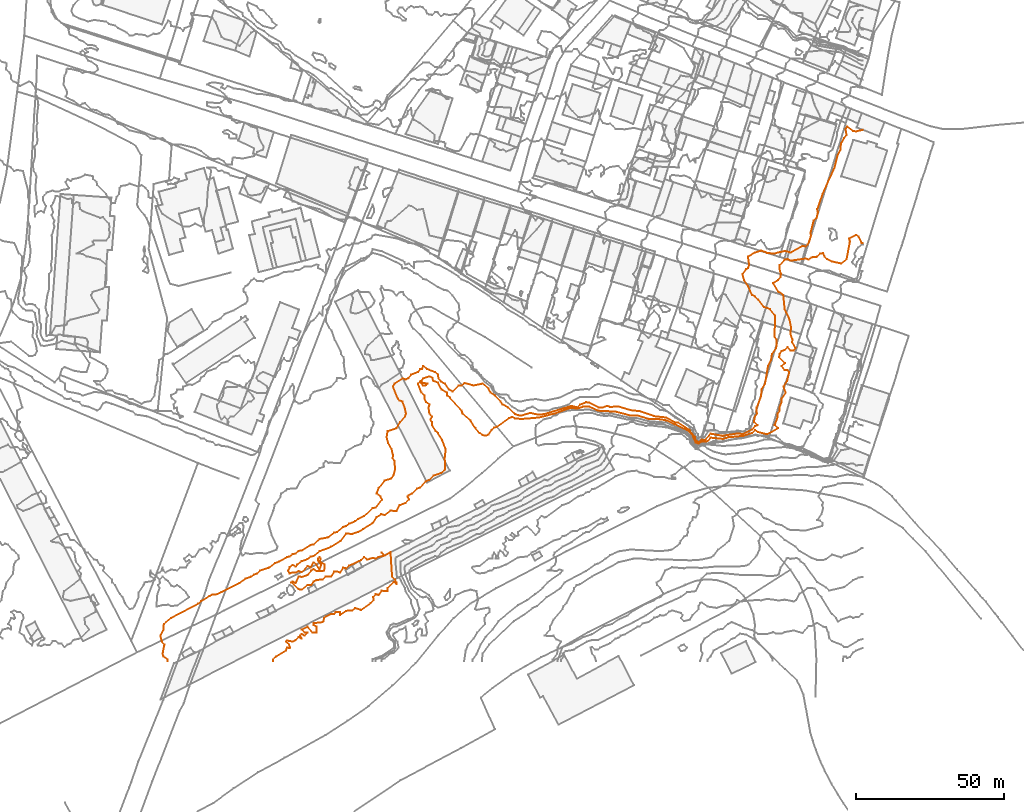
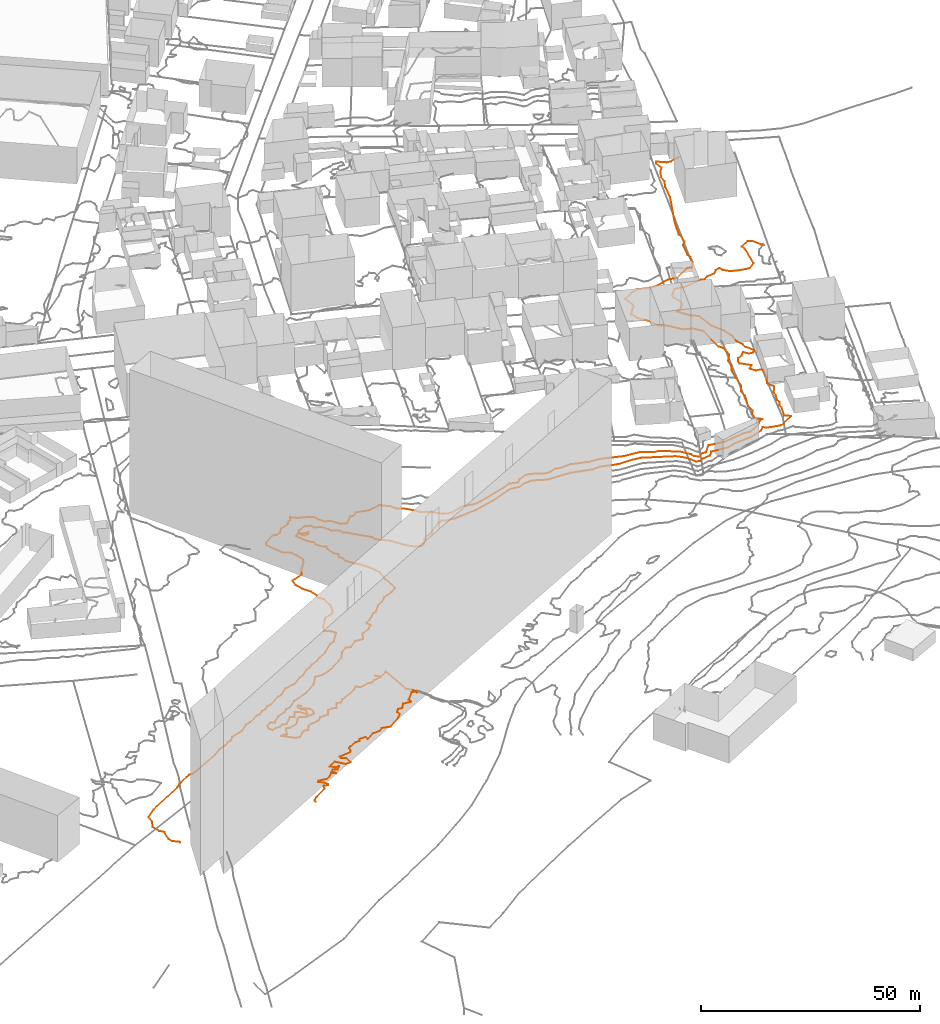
# Not in any storey, part 192 of 419: 2 proxies.
"""IFC2X3 model written with IfcOpenShell, lengths in metres."""

from ifc_helpers import new_model, entity, si_unit, frame, origin_with_axes, place, context, subcontext, project, element, save


model = new_model("IFC2X3")

# Units and contexts
model_context = context("Model", 3, precision=1e-05, world=origin_with_axes())
body_context = subcontext(model_context, "Body", "Model", "MODEL_VIEW")
ifc_project = project(units=[si_unit("AREAUNIT", "SQUARE_METRE"), si_unit("LENGTHUNIT", "METRE")], contexts=[model_context])

# Proxies
proxy_1_placement = place(None, frame((777.3776879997, -1.6023090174, 70.0), z_axis=(0.0, 0.0, 1.0), x_axis=(1.0, 0.0, 0.0)))
element("IfcBuildingElementProxy", 1, at=proxy_1_placement, Name="Contour 70.0 m", ObjectType="NOTDEFINED", context=body_context, shape_type="GeometricCurveSet", body=[
    entity("IfcGeometricCurveSet", [entity("IfcPolyline", [entity("IfcCartesianPoint", [199.214332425, 140.9999500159, 0.0]), entity("IfcCartesianPoint", [198.714332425, 140.9999500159, 0.0]), entity("IfcCartesianPoint", [197.714332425, 143.10003052, 0.0]), entity("IfcCartesianPoint", [196.714332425, 143.7000305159, 0.0]), entity("IfcCartesianPoint", [194.5143019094, 142.5, 0.0]), entity("IfcCartesianPoint", [194.714332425, 141.4999000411, 0.0]), entity("IfcCartesianPoint", [193.5605088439, 135.5, 0.0]), entity("IfcCartesianPoint", [191.714332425, 134.0789431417, 0.0]), entity("IfcCartesianPoint", [188.714332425, 134.7333299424, 0.0]), entity("IfcCartesianPoint", [187.077975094, 135.5, 0.0]), entity("IfcCartesianPoint", [186.1587674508, 136.5, 0.0]), entity("IfcCartesianPoint", [185.714332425, 137.6250238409, 0.0]), entity("IfcCartesianPoint", [184.714332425, 137.3571117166, 0.0]), entity("IfcCartesianPoint", [183.714332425, 136.3571117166, 0.0]), entity("IfcCartesianPoint", [181.714332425, 136.1667090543, 0.0]), entity("IfcCartesianPoint", [180.714332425, 135.4230633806, 0.0]), entity("IfcCartesianPoint", [179.714332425, 135.75, 0.0]), entity("IfcCartesianPoint", [174.714332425, 135.0161322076, 0.0]), entity("IfcCartesianPoint", [173.714332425, 135.4999944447, 0.0]), entity("IfcCartesianPoint", [172.714332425, 135.4090719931, 0.0]), entity("IfcCartesianPoint", [171.0220382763, 133.5, 0.0]), entity("IfcCartesianPoint", [170.9143019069, 132.5, 0.0]), entity("IfcCartesianPoint", [171.4286648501, 130.5, 0.0]), entity("IfcCartesianPoint", [171.3143629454, 129.5, 0.0]), entity("IfcCartesianPoint", [170.4286648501, 128.5, 0.0]), entity("IfcCartesianPoint", [168.8143553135, 127.5, 0.0]), entity("IfcCartesianPoint", [170.623435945, 124.5, 0.0]), entity("IfcCartesianPoint", [172.2143362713, 123.5, 0.0]), entity("IfcCartesianPoint", [172.714332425, 118.7500476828, 0.0]), entity("IfcCartesianPoint", [174.2528029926, 115.5, 0.0]), entity("IfcCartesianPoint", [174.7143395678, 113.5, 0.0]), entity("IfcCartesianPoint", [174.8681560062, 112.5, 0.0]), entity("IfcCartesianPoint", [174.6309831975, 110.5, 0.0]), entity("IfcCartesianPoint", [175.2976498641, 108.5, 0.0]), entity("IfcCartesianPoint", [175.2643438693, 107.5, 0.0]), entity("IfcCartesianPoint", [176.3393383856, 105.5, 0.0]), entity("IfcCartesianPoint", [175.714332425, 104.6666454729, 0.0]), entity("IfcCartesianPoint", [174.714332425, 104.7727146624, 0.0]), entity("IfcCartesianPoint", [173.714332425, 105.9166825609, 0.0]), entity("IfcCartesianPoint", [172.714332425, 104.89996948, 0.0]), entity("IfcCartesianPoint", [171.5714441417, 104.5, 0.0]), entity("IfcCartesianPoint", [171.0476233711, 103.5, 0.0]), entity("IfcCartesianPoint", [170.8572207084, 102.5, 0.0]), entity("IfcCartesianPoint", [172.8572207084, 100.5, 0.0]), entity("IfcCartesianPoint", [171.7143574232, 99.5, 0.0]), entity("IfcCartesianPoint", [172.714332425, 98.166666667, 0.0]), entity("IfcCartesianPoint", [173.714332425, 98.0624910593, 0.0]), entity("IfcCartesianPoint", [174.2143379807, 97.5, 0.0]), entity("IfcCartesianPoint", [173.5306656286, 94.5, 0.0]), entity("IfcCartesianPoint", [172.3111084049, 92.5, 0.0]), entity("IfcCartesianPoint", [173.0621613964, 90.5, 0.0]), entity("IfcCartesianPoint", [171.6921056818, 88.5, 0.0]), entity("IfcCartesianPoint", [171.7143395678, 87.5, 0.0]), entity("IfcCartesianPoint", [170.9286103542, 85.5, 0.0]), entity("IfcCartesianPoint", [171.0476827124, 84.5, 0.0]), entity("IfcCartesianPoint", [170.3393234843, 83.5, 0.0]), entity("IfcCartesianPoint", [170.3665034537, 82.5, 0.0]), entity("IfcCartesianPoint", [169.3429100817, 79.5, 0.0]), entity("IfcCartesianPoint", [170.5220145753, 78.5, 0.0]), entity("IfcCartesianPoint", [166.714332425, 76.4510888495, 0.0]), entity("IfcCartesianPoint", [163.714332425, 77.1785694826, 0.0]), entity("IfcCartesianPoint", [162.714332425, 77.8484880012, 0.0]), entity("IfcCartesianPoint", [161.714332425, 76.947056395, 0.0]), entity("IfcCartesianPoint", [158.714332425, 75.9000000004, 0.0]), entity("IfcCartesianPoint", [153.714332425, 75.4499969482, 0.0]), entity("IfcCartesianPoint", [151.714332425, 74.8894746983, 0.0]), entity("IfcCartesianPoint", [147.714332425, 75.3214305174, 0.0]), entity("IfcCartesianPoint", [146.714332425, 74.105041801, 0.0]), entity("IfcCartesianPoint", [144.714332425, 73.9551735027, 0.0]), entity("IfcCartesianPoint", [143.714332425, 73.3651682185, 0.0]), entity("IfcCartesianPoint", [142.714332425, 73.6382103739, 0.0]), entity("IfcCartesianPoint", [141.714332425, 75.8785701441, 0.0]), entity("IfcCartesianPoint", [139.714332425, 77.8393937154, 0.0]), entity("IfcCartesianPoint", [132.714332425, 81.1666685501, 0.0]), entity("IfcCartesianPoint", [130.714332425, 81.5090109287, 0.0]), entity("IfcCartesianPoint", [126.714332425, 81.6315765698, 0.0]), entity("IfcCartesianPoint", [122.714332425, 82.8469365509, 0.0]), entity("IfcCartesianPoint", [120.714332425, 82.7608690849, 0.0]), entity("IfcCartesianPoint", [115.714332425, 84.0806459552, 0.0]), entity("IfcCartesianPoint", [109.714332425, 84.4036124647, 0.0]), entity("IfcCartesianPoint", [106.714332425, 85.7619049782, 0.0]), entity("IfcCartesianPoint", [105.714332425, 85.7857154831, 0.0]), entity("IfcCartesianPoint", [104.714332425, 85.7641504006, 0.0]), entity("IfcCartesianPoint", [102.714332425, 85.0889826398, 0.0]), entity("IfcCartesianPoint", [100.714332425, 85.3698612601, 0.0]), entity("IfcCartesianPoint", [99.714332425, 85.1821174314, 0.0]), entity("IfcCartesianPoint", [95.2360679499, 83.5, 0.0]), entity("IfcCartesianPoint", [89.714332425, 82.0858571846, 0.0]), entity("IfcCartesianPoint", [83.714332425, 81.5988975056, 0.0]), entity("IfcCartesianPoint", [81.714332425, 81.8333268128, 0.0]), entity("IfcCartesianPoint", [80.714332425, 82.2778060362, 0.0]), entity("IfcCartesianPoint", [79.714332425, 81.9444350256, 0.0]), entity("IfcCartesianPoint", [75.714332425, 78.9999749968, 0.0]), entity("IfcCartesianPoint", [74.714332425, 78.6666878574, 0.0]), entity("IfcCartesianPoint", [73.714332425, 77.8332909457, 0.0]), entity("IfcCartesianPoint", [72.714332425, 76.3571117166, 0.0]), entity("IfcCartesianPoint", [71.714332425, 75.9545706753, 0.0]), entity("IfcCartesianPoint", [70.714332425, 76.166666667, 0.0]), entity("IfcCartesianPoint", [69.714332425, 76.9444350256, 0.0]), entity("IfcCartesianPoint", [68.3297080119, 78.5, 0.0]), entity("IfcCartesianPoint", [66.714332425, 81.0624910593, 0.0]), entity("IfcCartesianPoint", [63.9286103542, 83.5, 0.0]), entity("IfcCartesianPoint", [63.714332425, 84.5303093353, 0.0]), entity("IfcCartesianPoint", [59.714332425, 88.8846244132, 0.0]), entity("IfcCartesianPoint", [58.8254623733, 89.5, 0.0]), entity("IfcCartesianPoint", [58.7142990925, 90.5, 0.0]), entity("IfcCartesianPoint", [57.0, 91.5, 0.0]), entity("IfcCartesianPoint", [55.714332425, 93.8666649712, 0.0]), entity("IfcCartesianPoint", [54.1428882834, 94.5, 0.0]), entity("IfcCartesianPoint", [53.8572207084, 95.5, 0.0]), entity("IfcCartesianPoint", [52.714332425, 95.9999833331, 0.0]), entity("IfcCartesianPoint", [50.714332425, 95.3333121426, 0.0]), entity("IfcCartesianPoint", [50.0, 94.5, 0.0]), entity("IfcCartesianPoint", [50.714332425, 93.785667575, 0.0]), entity("IfcCartesianPoint", [52.2143824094, 93.5, 0.0]), entity("IfcCartesianPoint", [51.714332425, 92.9999500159, 0.0]), entity("IfcCartesianPoint", [50.714332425, 92.8334181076, 0.0]), entity("IfcCartesianPoint", [49.714332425, 94.1667090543, 0.0]), entity("IfcCartesianPoint", [48.9143629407, 93.5, 0.0]), entity("IfcCartesianPoint", [50.1260997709, 90.5, 0.0]), entity("IfcCartesianPoint", [51.1428882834, 89.5, 0.0]), entity("IfcCartesianPoint", [51.1809923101, 88.5, 0.0]), entity("IfcCartesianPoint", [51.714332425, 87.2999694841, 0.0]), entity("IfcCartesianPoint", [52.8254623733, 86.5, 0.0]), entity("IfcCartesianPoint", [52.5476445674, 85.5, 0.0]), entity("IfcCartesianPoint", [52.8393562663, 83.5, 0.0]), entity("IfcCartesianPoint", [53.7143435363, 82.5, 0.0]), entity("IfcCartesianPoint", [53.2143824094, 81.5, 0.0]), entity("IfcCartesianPoint", [53.7143657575, 80.5, 0.0]), entity("IfcCartesianPoint", [53.7143574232, 79.5, 0.0]), entity("IfcCartesianPoint", [54.9643801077, 77.5, 0.0]), entity("IfcCartesianPoint", [55.714332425, 76.89996948, 0.0]), entity("IfcCartesianPoint", [57.1260997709, 74.5, 0.0]), entity("IfcCartesianPoint", [58.3143385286, 71.5, 0.0]), entity("IfcCartesianPoint", [58.0000544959, 68.5, 0.0]), entity("IfcCartesianPoint", [58.1428882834, 64.5, 0.0]), entity("IfcCartesianPoint", [56.714332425, 63.4230633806, 0.0]), entity("IfcCartesianPoint", [54.2143490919, 62.5, 0.0]), entity("IfcCartesianPoint", [52.714332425, 61.0714441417, 0.0]), entity("IfcCartesianPoint", [51.4643562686, 60.5, 0.0]), entity("IfcCartesianPoint", [49.714332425, 58.4999888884, 0.0]), entity("IfcCartesianPoint", [48.714332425, 58.10003052, 0.0]), entity("IfcCartesianPoint", [46.9143629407, 56.5, 0.0]), entity("IfcCartesianPoint", [45.714332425, 55.8332909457, 0.0]), entity("IfcCartesianPoint", [45.5143629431, 55.5, 0.0]), entity("IfcCartesianPoint", [45.9643801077, 54.5, 0.0]), entity("IfcCartesianPoint", [44.714332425, 53.3333121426, 0.0]), entity("IfcCartesianPoint", [42.7143490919, 52.5, 0.0]), entity("IfcCartesianPoint", [41.714332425, 50.4999875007, 0.0]), entity("IfcCartesianPoint", [39.714332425, 50.6817992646, 0.0]), entity("IfcCartesianPoint", [37.714332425, 49.1667090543, 0.0]), entity("IfcCartesianPoint", [36.5714441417, 49.5, 0.0]), entity("IfcCartesianPoint", [35.0, 48.5, 0.0]), entity("IfcCartesianPoint", [33.714332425, 46.4999888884, 0.0]), entity("IfcCartesianPoint", [30.5143019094, 44.5, 0.0]), entity("IfcCartesianPoint", [28.714332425, 43.4999923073, 0.0]), entity("IfcCartesianPoint", [26.714332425, 42.833333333, 0.0]), entity("IfcCartesianPoint", [24.714332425, 42.9166825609, 0.0]), entity("IfcCartesianPoint", [22.8393562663, 40.5, 0.0]), entity("IfcCartesianPoint", [19.714332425, 38.4999833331, 0.0]), entity("IfcCartesianPoint", [15.714332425, 36.9999875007, 0.0]), entity("IfcCartesianPoint", [13.714332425, 35.3571117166, 0.0]), entity("IfcCartesianPoint", [12.714332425, 35.2000076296, 0.0]), entity("IfcCartesianPoint", [11.714332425, 34.3333121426, 0.0]), entity("IfcCartesianPoint", [9.714332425, 33.6000228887, 0.0]), entity("IfcCartesianPoint", [8.2143490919, 32.5, 0.0]), entity("IfcCartesianPoint", [7.714332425, 31.7500476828, 0.0]), entity("IfcCartesianPoint", [6.714332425, 32.4090719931, 0.0]), entity("IfcCartesianPoint", [5.714332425, 31.6428882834, 0.0]), entity("IfcCartesianPoint", [5.2143490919, 30.5, 0.0]), entity("IfcCartesianPoint", [5.714332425, 29.500033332, 0.0]), entity("IfcCartesianPoint", [6.714332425, 29.8332909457, 0.0]), entity("IfcCartesianPoint", [7.714332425, 29.7500476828, 0.0]), entity("IfcCartesianPoint", [8.714332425, 30.2499523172, 0.0]), entity("IfcCartesianPoint", [9.714332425, 29.89996948, 0.0]), entity("IfcCartesianPoint", [11.714332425, 32.0000499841, 0.0]), entity("IfcCartesianPoint", [12.714332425, 31.500033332, 0.0]), entity("IfcCartesianPoint", [13.714332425, 33.2499523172, 0.0]), entity("IfcCartesianPoint", [14.714332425, 32.5000500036, 0.0]), entity("IfcCartesianPoint", [15.714332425, 30.8334181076, 0.0]), entity("IfcCartesianPoint", [16.3143629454, 32.5, 0.0]), entity("IfcCartesianPoint", [15.3809143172, 33.5, 0.0]), entity("IfcCartesianPoint", [15.2143199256, 34.5, 0.0]), entity("IfcCartesianPoint", [15.714332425, 35.0714441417, 0.0]), entity("IfcCartesianPoint", [16.1587674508, 34.5, 0.0]), entity("IfcCartesianPoint", [15.8572207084, 33.5, 0.0]), entity("IfcCartesianPoint", [17.3809143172, 32.5, 0.0]), entity("IfcCartesianPoint", [17.5143019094, 31.5, 0.0]), entity("IfcCartesianPoint", [17.2143824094, 30.5, 0.0]), entity("IfcCartesianPoint", [16.714332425, 30.2499523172, 0.0]), entity("IfcCartesianPoint", [14.714332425, 30.2499523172, 0.0]), entity("IfcCartesianPoint", [13.714332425, 30.9285558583, 0.0]), entity("IfcCartesianPoint", [12.9643801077, 30.5, 0.0]), entity("IfcCartesianPoint", [11.714332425, 28.9285558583, 0.0]), entity("IfcCartesianPoint", [9.714332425, 28.2999694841, 0.0]), entity("IfcCartesianPoint", [8.714332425, 28.4999000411, 0.0]), entity("IfcCartesianPoint", [7.714332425, 26.2999694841, 0.0]), entity("IfcCartesianPoint", [6.714332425, 26.7000305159, 0.0]), entity("IfcCartesianPoint", [6.2143824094, 26.5, 0.0]), entity("IfcCartesianPoint", [8.714332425, 24.1667090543, 0.0]), entity("IfcCartesianPoint", [9.714332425, 24.0000166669, 0.0]), entity("IfcCartesianPoint", [11.714332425, 25.6428882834, 0.0]), entity("IfcCartesianPoint", [12.8254623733, 25.5, 0.0]), entity("IfcCartesianPoint", [13.714332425, 26.8334181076, 0.0]), entity("IfcCartesianPoint", [14.714332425, 27.2499523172, 0.0]), entity("IfcCartesianPoint", [16.7142824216, 27.5, 0.0]), entity("IfcCartesianPoint", [17.714332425, 28.500033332, 0.0]), entity("IfcCartesianPoint", [19.714332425, 28.5000249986, 0.0]), entity("IfcCartesianPoint", [20.714332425, 30.0555649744, 0.0]), entity("IfcCartesianPoint", [21.714332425, 30.1667090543, 0.0]), entity("IfcCartesianPoint", [22.714332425, 29.7500476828, 0.0]), entity("IfcCartesianPoint", [23.7142324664, 31.5, 0.0]), entity("IfcCartesianPoint", [24.714332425, 31.2000076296, 0.0]), entity("IfcCartesianPoint", [25.714332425, 32.0999847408, 0.0]), entity("IfcCartesianPoint", [29.714332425, 34.0000124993, 0.0]), entity("IfcCartesianPoint", [30.714332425, 35.0000250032, 0.0]), entity("IfcCartesianPoint", [31.714332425, 34.1665818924, 0.0]), entity("IfcCartesianPoint", [33.714332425, 34.7499761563, 0.0]), entity("IfcCartesianPoint", [34.714332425, 34.5000199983, 0.0]), entity("IfcCartesianPoint", [35.714332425, 35.0714441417, 0.0]), entity("IfcCartesianPoint", [37.7142824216, 35.5, 0.0]), entity("IfcCartesianPoint", [36.714332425, 36.5000111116, 0.0]), entity("IfcCartesianPoint", [37.714332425, 35.5000199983, 0.0]), entity("IfcCartesianPoint", [39.714332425, 36.7500476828, 0.0]), entity("IfcCartesianPoint", [40.2370644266, 28.5, 0.0]), entity("IfcCartesianPoint", [41.2143357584, 27.5, 0.0]), entity("IfcCartesianPoint", [41.7488224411, 26.5, 0.0]), entity("IfcCartesianPoint", [41.714332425, 25.9999500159, 0.0]), entity("IfcCartesianPoint", [41.4642847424, 26.5, 0.0]), entity("IfcCartesianPoint", [40.714332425, 26.666659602, 0.0]), entity("IfcCartesianPoint", [38.7144323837, 24.5, 0.0]), entity("IfcCartesianPoint", [38.714332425, 23.4999750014, 0.0]), entity("IfcCartesianPoint", [36.714332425, 23.6666878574, 0.0]), entity("IfcCartesianPoint", [35.714332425, 22.2499523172, 0.0]), entity("IfcCartesianPoint", [34.714332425, 22.4999800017, 0.0]), entity("IfcCartesianPoint", [33.8810202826, 21.5, 0.0]), entity("IfcCartesianPoint", [34.0477505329, 20.5, 0.0]), entity("IfcCartesianPoint", [33.0477505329, 19.5, 0.0]), entity("IfcCartesianPoint", [29.714332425, 17.214332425, 0.0]), entity("IfcCartesianPoint", [27.714332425, 17.7500476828, 0.0]), entity("IfcCartesianPoint", [26.714332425, 16.9999875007, 0.0]), entity("IfcCartesianPoint", [24.714332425, 16.8749761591, 0.0]), entity("IfcCartesianPoint", [22.714332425, 15.4999833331, 0.0]), entity("IfcCartesianPoint", [22.7143124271, 16.5, 0.0]), entity("IfcCartesianPoint", [21.1587674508, 16.5, 0.0]), entity("IfcCartesianPoint", [20.714332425, 15.8332909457, 0.0]), entity("IfcCartesianPoint", [19.714332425, 15.833333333, 0.0]), entity("IfcCartesianPoint", [17.714332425, 14.9545706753, 0.0]), entity("IfcCartesianPoint", [17.2597617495, 14.5, 0.0]), entity("IfcCartesianPoint", [17.0893085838, 13.5, 0.0]), entity("IfcCartesianPoint", [16.714332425, 13.0714441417, 0.0]), entity("IfcCartesianPoint", [13.714332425, 12.7000305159, 0.0]), entity("IfcCartesianPoint", [13.714332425, 12.0000499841, 0.0]), entity("IfcCartesianPoint", [14.7143574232, 11.5, 0.0]), entity("IfcCartesianPoint", [14.714332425, 9.4999833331, 0.0]), entity("IfcCartesianPoint", [13.3809143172, 9.5, 0.0]), entity("IfcCartesianPoint", [11.714332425, 11.4999499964, 0.0]), entity("IfcCartesianPoint", [9.7144323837, 10.5, 0.0]), entity("IfcCartesianPoint", [10.714332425, 9.5000999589, 0.0]), entity("IfcCartesianPoint", [11.7143824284, 9.5, 0.0]), entity("IfcCartesianPoint", [10.714332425, 8.4999800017, 0.0]), entity("IfcCartesianPoint", [9.714332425, 8.9999500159, 0.0]), entity("IfcCartesianPoint", [9.2143824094, 8.5, 0.0]), entity("IfcCartesianPoint", [9.714332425, 7.499966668, 0.0]), entity("IfcCartesianPoint", [8.714332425, 7.9999500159, 0.0]), entity("IfcCartesianPoint", [7.714332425, 6.9999749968, 0.0]), entity("IfcCartesianPoint", [6.714332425, 6.4999000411, 0.0]), entity("IfcCartesianPoint", [4.714332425, 6.8334181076, 0.0]), entity("IfcCartesianPoint", [4.3809143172, 6.5, 0.0]), entity("IfcCartesianPoint", [5.4642847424, 5.5, 0.0]), entity("IfcCartesianPoint", [5.8810202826, 4.5, 0.0]), entity("IfcCartesianPoint", [5.714332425, 4.2499523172, 0.0]), entity("IfcCartesianPoint", [4.714332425, 4.4999000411, 0.0]), entity("IfcCartesianPoint", [4.3809143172, 3.5, 0.0]), entity("IfcCartesianPoint", [1.1143476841, 1.5, 0.0]), entity("IfcCartesianPoint", [0.0, 0.5, 0.0]), entity("IfcCartesianPoint", [0.0, 0.0, 0.0])])]),
])
proxy_2_placement = place(None, frame((739.4253537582, 6.8976909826, 71.0), z_axis=(0.0, 0.0, 1.0), x_axis=(1.0, 0.0, 0.0)))
element("IfcBuildingElementProxy", 2, at=proxy_2_placement, Name="Contour 71.0 m", ObjectType="NOTDEFINED", context=body_context, shape_type="GeometricCurveSet", body=[
    entity("IfcGeometricCurveSet", [entity("IfcPolyline", [entity("IfcCartesianPoint", [237.1666666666, 170.714332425, 0.0]), entity("IfcCartesianPoint", [234.6666666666, 170.1538235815, 0.0]), entity("IfcCartesianPoint", [233.6666666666, 170.2499761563, 0.0]), entity("IfcCartesianPoint", [231.6666666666, 171.7618978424, 0.0]), entity("IfcCartesianPoint", [231.2222128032, 171.0, 0.0]), entity("IfcCartesianPoint", [231.5666437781, 169.0, 0.0]), entity("IfcCartesianPoint", [230.6666666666, 167.9285558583, 0.0]), entity("IfcCartesianPoint", [229.6666733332, 166.0, 0.0]), entity("IfcCartesianPoint", [229.43808901, 164.0, 0.0]), entity("IfcCartesianPoint", [228.5045089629, 162.0, 0.0]), entity("IfcCartesianPoint", [227.4533284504, 158.0, 0.0]), entity("IfcCartesianPoint", [223.434527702, 149.0, 0.0]), entity("IfcCartesianPoint", [221.6666688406, 144.0, 0.0]), entity("IfcCartesianPoint", [221.8473909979, 143.0, 0.0]), entity("IfcCartesianPoint", [221.4369387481, 141.0, 0.0]), entity("IfcCartesianPoint", [220.4259314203, 140.0, 0.0]), entity("IfcCartesianPoint", [219.4207627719, 136.0, 0.0]), entity("IfcCartesianPoint", [219.5053775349, 135.0, 0.0]), entity("IfcCartesianPoint", [218.940351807, 133.0, 0.0]), entity("IfcCartesianPoint", [218.3589698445, 132.0, 0.0]), entity("IfcCartesianPoint", [217.6666666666, 131.2799987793, 0.0]), entity("IfcCartesianPoint", [216.6666666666, 131.5365835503, 0.0]), entity("IfcCartesianPoint", [212.6666666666, 129.2999923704, 0.0]), entity("IfcCartesianPoint", [210.6666666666, 129.7999974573, 0.0]), entity("IfcCartesianPoint", [206.6666666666, 128.864404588, 0.0]), entity("IfcCartesianPoint", [204.6666666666, 129.1900024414, 0.0]), entity("IfcCartesianPoint", [202.6666666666, 129.9166799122, 0.0]), entity("IfcCartesianPoint", [200.6666666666, 129.285667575, 0.0]), entity("IfcCartesianPoint", [198.2820422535, 128.0, 0.0]), entity("IfcCartesianPoint", [198.6666666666, 124.9999499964, 0.0]), entity("IfcCartesianPoint", [198.266697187, 124.0, 0.0]), entity("IfcCartesianPoint", [197.6666666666, 123.6250238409, 0.0]), entity("IfcCartesianPoint", [196.4166666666, 122.0, 0.0]), entity("IfcCartesianPoint", [196.9743725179, 120.0, 0.0]), entity("IfcCartesianPoint", [198.2820422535, 118.0, 0.0]), entity("IfcCartesianPoint", [199.6666666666, 115.0000142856, 0.0]), entity("IfcCartesianPoint", [200.6666666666, 114.5000099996, 0.0]), entity("IfcCartesianPoint", [201.6666666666, 113.5000099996, 0.0]), entity("IfcCartesianPoint", [203.6666666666, 110.8888700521, 0.0]), entity("IfcCartesianPoint", [205.6666666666, 110.1666878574, 0.0]), entity("IfcCartesianPoint", [207.3999966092, 108.0, 0.0]), entity("IfcCartesianPoint", [207.2786071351, 101.0, 0.0]), entity("IfcCartesianPoint", [207.8636333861, 100.0, 0.0]), entity("IfcCartesianPoint", [207.996562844, 99.0, 0.0]), entity("IfcCartesianPoint", [207.7901219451, 97.0, 0.0]), entity("IfcCartesianPoint", [206.3650778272, 95.0, 0.0]), entity("IfcCartesianPoint", [206.0476203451, 93.0, 0.0]), entity("IfcCartesianPoint", [205.0340158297, 91.0, 0.0]), entity("IfcCartesianPoint", [204.0325207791, 85.0, 0.0]), entity("IfcCartesianPoint", [202.7886242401, 83.0, 0.0]), entity("IfcCartesianPoint", [202.7642290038, 81.0, 0.0]), entity("IfcCartesianPoint", [201.232703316, 77.0, 0.0]), entity("IfcCartesianPoint", [201.2582141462, 75.0, 0.0]), entity("IfcCartesianPoint", [200.5833333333, 74.0, 0.0]), entity("IfcCartesianPoint", [200.2575773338, 72.0, 0.0]), entity("IfcCartesianPoint", [201.5714441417, 71.0, 0.0]), entity("IfcCartesianPoint", [200.6666666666, 70.7499974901, 0.0]), entity("IfcCartesianPoint", [199.6666666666, 69.6309536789, 0.0]), entity("IfcCartesianPoint", [196.6666666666, 68.0317467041, 0.0]), entity("IfcCartesianPoint", [194.6666666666, 68.2307667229, 0.0]), entity("IfcCartesianPoint", [189.6666666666, 67.4374985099, 0.0]), entity("IfcCartesianPoint", [185.6666666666, 68.1204798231, 0.0]), entity("IfcCartesianPoint", [183.7528785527, 66.0, 0.0]), entity("IfcCartesianPoint", [182.6666666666, 66.1029406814, 0.0]), entity("IfcCartesianPoint", [181.6666666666, 65.2882878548, 0.0]), entity("IfcCartesianPoint", [180.6666666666, 65.9512213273, 0.0]), entity("IfcCartesianPoint", [180.3782935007, 67.0, 0.0]), entity("IfcCartesianPoint", [178.6666666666, 69.2519689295, 0.0]), entity("IfcCartesianPoint", [174.6666666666, 71.8351638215, 0.0]), entity("IfcCartesianPoint", [173.6666666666, 71.9059822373, 0.0]), entity("IfcCartesianPoint", [170.6666666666, 73.5914009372, 0.0]), entity("IfcCartesianPoint", [166.6666666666, 74.0571335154, 0.0]), entity("IfcCartesianPoint", [161.6666666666, 75.7333299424, 0.0]), entity("IfcCartesianPoint", [158.6666666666, 76.0769117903, 0.0]), entity("IfcCartesianPoint", [154.6666666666, 77.2799987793, 0.0]), entity("IfcCartesianPoint", [151.6666666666, 77.2068874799, 0.0]), entity("IfcCartesianPoint", [150.6666666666, 77.5135163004, 0.0]), entity("IfcCartesianPoint", [149.1666766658, 77.0, 0.0]), entity("IfcCartesianPoint", [147.8333545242, 77.0, 0.0]), entity("IfcCartesianPoint", [144.6666666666, 78.6229456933, 0.0]), entity("IfcCartesianPoint", [143.6666666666, 78.7608677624, 0.0]), entity("IfcCartesianPoint", [141.6666666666, 77.956043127, 0.0]), entity("IfcCartesianPoint", [140.6666666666, 77.0555532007, 0.0]), entity("IfcCartesianPoint", [138.6666666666, 77.5547931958, 0.0]), entity("IfcCartesianPoint", [129.6666666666, 74.79354899, 0.0]), entity("IfcCartesianPoint", [127.6666666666, 74.5412828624, 0.0]), entity("IfcCartesianPoint", [124.6666666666, 75.1636310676, 0.0]), entity("IfcCartesianPoint", [121.6666666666, 74.2337676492, 0.0]), entity("IfcCartesianPoint", [120.6666666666, 74.3793112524, 0.0]), entity("IfcCartesianPoint", [119.6666666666, 74.7115357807, 0.0]), entity("IfcCartesianPoint", [117.3166673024, 77.0, 0.0]), entity("IfcCartesianPoint", [115.4615334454, 78.0, 0.0]), entity("IfcCartesianPoint", [114.8666692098, 79.0, 0.0]), entity("IfcCartesianPoint", [112.9191924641, 81.0, 0.0]), entity("IfcCartesianPoint", [111.4166905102, 82.0, 0.0]), entity("IfcCartesianPoint", [110.6666666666, 83.3888865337, 0.0]), entity("IfcCartesianPoint", [108.6666666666, 85.0555673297, 0.0]), entity("IfcCartesianPoint", [105.6666666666, 84.4285558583, 0.0]), entity("IfcCartesianPoint", [102.6666666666, 85.2221939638, 0.0]), entity("IfcCartesianPoint", [101.6666666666, 84.4285558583, 0.0]), entity("IfcCartesianPoint", [100.6666666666, 84.3334181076, 0.0]), entity("IfcCartesianPoint", [98.6666666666, 82.333333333, 0.0]), entity("IfcCartesianPoint", [97.3924739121, 83.0, 0.0]), entity("IfcCartesianPoint", [96.0380890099, 85.0, 0.0]), entity("IfcCartesianPoint", [94.6666666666, 85.6914891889, 0.0]), entity("IfcCartesianPoint", [93.848488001, 87.0, 0.0]), entity("IfcCartesianPoint", [93.6666666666, 88.0624895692, 0.0]), entity("IfcCartesianPoint", [92.6666666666, 88.8923084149, 0.0]), entity("IfcCartesianPoint", [89.9393813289, 90.0, 0.0]), entity("IfcCartesianPoint", [88.6666666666, 91.0277836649, 0.0]), entity("IfcCartesianPoint", [88.2916905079, 90.0, 0.0]), entity("IfcCartesianPoint", [87.6666666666, 89.9122753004, 0.0]), entity("IfcCartesianPoint", [86.9639664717, 89.0, 0.0]), entity("IfcCartesianPoint", [84.6666666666, 88.0860234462, 0.0]), entity("IfcCartesianPoint", [83.6666666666, 86.912086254, 0.0]), entity("IfcCartesianPoint", [82.6666666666, 86.4766376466, 0.0]), entity("IfcCartesianPoint", [81.6666666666, 86.795460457, 0.0]), entity("IfcCartesianPoint", [78.9425341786, 85.0, 0.0]), entity("IfcCartesianPoint", [78.4666666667, 84.0, 0.0]), entity("IfcCartesianPoint", [80.1166552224, 80.0, 0.0]), entity("IfcCartesianPoint", [80.6666666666, 79.3529306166, 0.0]), entity("IfcCartesianPoint", [81.6666738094, 79.0, 0.0]), entity("IfcCartesianPoint", [82.466676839, 77.0, 0.0]), entity("IfcCartesianPoint", [82.8541636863, 75.0, 0.0]), entity("IfcCartesianPoint", [82.4902013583, 74.0, 0.0]), entity("IfcCartesianPoint", [80.8204902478, 72.0, 0.0]), entity("IfcCartesianPoint", [79.666680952, 70.0, 0.0]), entity("IfcCartesianPoint", [76.6666666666, 68.9999800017, 0.0]), entity("IfcCartesianPoint", [76.3333333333, 67.0, 0.0]), entity("IfcCartesianPoint", [76.8974313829, 65.0, 0.0]), entity("IfcCartesianPoint", [78.0238147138, 63.0, 0.0]), entity("IfcCartesianPoint", [78.4666666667, 61.0, 0.0]), entity("IfcCartesianPoint", [78.3999966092, 60.0, 0.0]), entity("IfcCartesianPoint", [79.0114879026, 59.0, 0.0]), entity("IfcCartesianPoint", [79.1904813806, 56.0, 0.0]), entity("IfcCartesianPoint", [78.6666666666, 54.1428882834, 0.0]), entity("IfcCartesianPoint", [77.8666361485, 53.0, 0.0]), entity("IfcCartesianPoint", [75.6666666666, 52.3749761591, 0.0]), entity("IfcCartesianPoint", [73.6666666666, 49.7499523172, 0.0]), entity("IfcCartesianPoint", [72.9167143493, 48.0, 0.0]), entity("IfcCartesianPoint", [74.266697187, 47.0, 0.0]), entity("IfcCartesianPoint", [74.80955495, 46.0, 0.0]), entity("IfcCartesianPoint", [72.6666666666, 43.2500476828, 0.0]), entity("IfcCartesianPoint", [71.6666666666, 42.9999800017, 0.0]), entity("IfcCartesianPoint", [68.6666666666, 40.4000152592, 0.0]), entity("IfcCartesianPoint", [66.6666666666, 39.4285558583, 0.0]), entity("IfcCartesianPoint", [65.6666666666, 38.60003052, 0.0]), entity("IfcCartesianPoint", [63.6666666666, 37.7692352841, 0.0]), entity("IfcCartesianPoint", [62.7142960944, 37.0, 0.0]), entity("IfcCartesianPoint", [61.6666666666, 36.7000076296, 0.0]), entity("IfcCartesianPoint", [59.6888934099, 35.0, 0.0]), entity("IfcCartesianPoint", [58.6666666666, 34.7358495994, 0.0]), entity("IfcCartesianPoint", [56.6666666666, 33.2105284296, 0.0]), entity("IfcCartesianPoint", [53.6666666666, 32.625, 0.0]), entity("IfcCartesianPoint", [51.6666666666, 30.8271607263, 0.0]), entity("IfcCartesianPoint", [50.6666666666, 30.5882388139, 0.0]), entity("IfcCartesianPoint", [47.6666666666, 28.7142857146, 0.0]), entity("IfcCartesianPoint", [46.6666666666, 28.6119404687, 0.0]), entity("IfcCartesianPoint", [45.6666666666, 27.73562916, 0.0]), entity("IfcCartesianPoint", [44.6666666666, 27.4905711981, 0.0]), entity("IfcCartesianPoint", [43.6666666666, 26.7391322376, 0.0]), entity("IfcCartesianPoint", [42.6666666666, 26.537315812, 0.0]), entity("IfcCartesianPoint", [40.1111205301, 25.0, 0.0]), entity("IfcCartesianPoint", [38.6666666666, 24.5362339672, 0.0]), entity("IfcCartesianPoint", [36.6666666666, 22.9499990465, 0.0]), entity("IfcCartesianPoint", [33.6666666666, 21.9999981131, 0.0]), entity("IfcCartesianPoint", [32.6666666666, 20.9756138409, 0.0]), entity("IfcCartesianPoint", [31.6666666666, 20.6373620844, 0.0]), entity("IfcCartesianPoint", [30.6666666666, 19.8651653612, 0.0]), entity("IfcCartesianPoint", [28.6666666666, 19.2580692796, 0.0]), entity("IfcCartesianPoint", [26.6666666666, 17.8333306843, 0.0]), entity("IfcCartesianPoint", [20.6666666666, 14.7727300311, 0.0]), entity("IfcCartesianPoint", [18.6666666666, 13.8051939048, 0.0]), entity("IfcCartesianPoint", [17.6666666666, 13.9047653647, 0.0]), entity("IfcCartesianPoint", [16.6666666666, 13.4310331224, 0.0]), entity("IfcCartesianPoint", [13.6666666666, 11.673078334, 0.0]), entity("IfcCartesianPoint", [12.6666666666, 10.7656223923, 0.0]), entity("IfcCartesianPoint", [3.634402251, 6.0, 0.0]), entity("IfcCartesianPoint", [1.1666738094, 4.0, 0.0]), entity("IfcCartesianPoint", [1.0, 2.0, 0.0]), entity("IfcCartesianPoint", [0.0, 0.0, 0.0]), entity("IfcCartesianPoint", [0.499978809, -2.0, 0.0]), entity("IfcCartesianPoint", [1.3333757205, -3.0, 0.0]), entity("IfcCartesianPoint", [0.7575946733, -6.0, 0.0]), entity("IfcCartesianPoint", [0.9999576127, -7.0, 0.0]), entity("IfcCartesianPoint", [2.3589608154, -8.0, 0.0]), entity("IfcCartesianPoint", [2.3589608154, -8.5, 0.0])])]),
])

save(model, "model.ifc")
